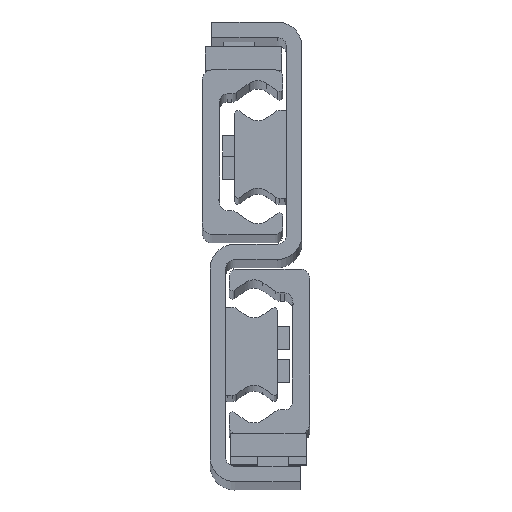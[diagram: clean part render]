
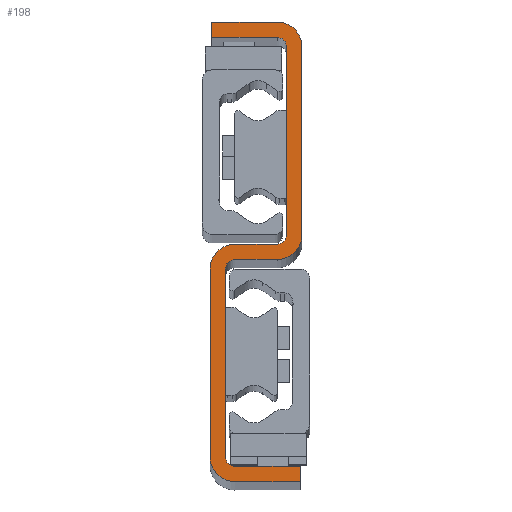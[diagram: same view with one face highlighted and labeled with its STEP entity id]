
A CAD part, top view. The second image highlights one B-rep face of the part: STEP entity #198.
In plain terms, the highlighted planar face has unit normal (0, 0, 1).
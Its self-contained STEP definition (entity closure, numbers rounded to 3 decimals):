
#198=ADVANCED_FACE('',(#673),#674,.T.);
#673=FACE_OUTER_BOUND('',#1431,.T.);
#674=PLANE('',#1432);
#1431=EDGE_LOOP('',(#2861,#2862,#2863,#2864,#2865,#2866,#2867,#2868,#2869,#2870,#2871,#2872,#2873,#2874,#2875,#2876,#2877,#2878,#2879,#2880));
#1432=AXIS2_PLACEMENT_3D('',#2881,#2882,#2883);
#2861=ORIENTED_EDGE('',*,*,#4969,.F.);
#2862=ORIENTED_EDGE('',*,*,#5027,.F.);
#2863=ORIENTED_EDGE('',*,*,#5024,.F.);
#2864=ORIENTED_EDGE('',*,*,#5021,.F.);
#2865=ORIENTED_EDGE('',*,*,#5018,.F.);
#2866=ORIENTED_EDGE('',*,*,#5015,.F.);
#2867=ORIENTED_EDGE('',*,*,#5012,.F.);
#2868=ORIENTED_EDGE('',*,*,#5009,.F.);
#2869=ORIENTED_EDGE('',*,*,#5006,.F.);
#2870=ORIENTED_EDGE('',*,*,#5003,.F.);
#2871=ORIENTED_EDGE('',*,*,#5000,.F.);
#2872=ORIENTED_EDGE('',*,*,#4997,.F.);
#2873=ORIENTED_EDGE('',*,*,#4994,.F.);
#2874=ORIENTED_EDGE('',*,*,#4991,.F.);
#2875=ORIENTED_EDGE('',*,*,#4988,.F.);
#2876=ORIENTED_EDGE('',*,*,#4985,.F.);
#2877=ORIENTED_EDGE('',*,*,#4982,.F.);
#2878=ORIENTED_EDGE('',*,*,#4979,.F.);
#2879=ORIENTED_EDGE('',*,*,#4976,.F.);
#2880=ORIENTED_EDGE('',*,*,#4973,.F.);
#2881=CARTESIAN_POINT('',(-14.,26.,1250.0));
#2882=DIRECTION('',(0.0,0.0,1.0));
#2883=DIRECTION('',(1.0,0.0,0.0));
#4969=EDGE_CURVE('',#6027,#6028,#6029,.T.);
#4973=EDGE_CURVE('',#6028,#6035,#6036,.T.);
#4976=EDGE_CURVE('',#6035,#6040,#6041,.T.);
#4979=EDGE_CURVE('',#6040,#6045,#6046,.T.);
#4982=EDGE_CURVE('',#6045,#6050,#6051,.T.);
#4985=EDGE_CURVE('',#6050,#6055,#6056,.T.);
#4988=EDGE_CURVE('',#6055,#6060,#6061,.T.);
#4991=EDGE_CURVE('',#6060,#6065,#6066,.T.);
#4994=EDGE_CURVE('',#6065,#6070,#6071,.T.);
#4997=EDGE_CURVE('',#6070,#6075,#6076,.T.);
#5000=EDGE_CURVE('',#6075,#6080,#6081,.T.);
#5003=EDGE_CURVE('',#6080,#6085,#6086,.T.);
#5006=EDGE_CURVE('',#6085,#6090,#6091,.T.);
#5009=EDGE_CURVE('',#6090,#6095,#6096,.T.);
#5012=EDGE_CURVE('',#6095,#6100,#6101,.T.);
#5015=EDGE_CURVE('',#6100,#6105,#6106,.T.);
#5018=EDGE_CURVE('',#6105,#6110,#6111,.T.);
#5021=EDGE_CURVE('',#6110,#6115,#6116,.T.);
#5024=EDGE_CURVE('',#6115,#6120,#6121,.T.);
#5027=EDGE_CURVE('',#6120,#6027,#6125,.T.);
#6027=VERTEX_POINT('',#7677);
#6028=VERTEX_POINT('',#7678);
#6029=LINE('',#7679,#7680);
#6035=VERTEX_POINT('',#7689);
#6036=CIRCLE('',#7690,2.5);
#6040=VERTEX_POINT('',#7695);
#6041=LINE('',#7696,#7697);
#6045=VERTEX_POINT('',#7703);
#6046=CIRCLE('',#7704,2.5);
#6050=VERTEX_POINT('',#7709);
#6051=LINE('',#7710,#7711);
#6055=VERTEX_POINT('',#7717);
#6056=LINE('',#7718,#7719);
#6060=VERTEX_POINT('',#7725);
#6061=LINE('',#7726,#7727);
#6065=VERTEX_POINT('',#7733);
#6066=CIRCLE('',#7734,6.5);
#6070=VERTEX_POINT('',#7739);
#6071=LINE('',#7740,#7741);
#6075=VERTEX_POINT('',#7747);
#6076=CIRCLE('',#7748,6.5);
#6080=VERTEX_POINT('',#7753);
#6081=LINE('',#7754,#7755);
#6085=VERTEX_POINT('',#7761);
#6086=CIRCLE('',#7762,2.5);
#6090=VERTEX_POINT('',#7767);
#6091=LINE('',#7768,#7769);
#6095=VERTEX_POINT('',#7775);
#6096=CIRCLE('',#7776,2.5);
#6100=VERTEX_POINT('',#7781);
#6101=LINE('',#7782,#7783);
#6105=VERTEX_POINT('',#7789);
#6106=LINE('',#7790,#7791);
#6110=VERTEX_POINT('',#7797);
#6111=LINE('',#7798,#7799);
#6115=VERTEX_POINT('',#7805);
#6116=CIRCLE('',#7806,6.5);
#6120=VERTEX_POINT('',#7811);
#6121=LINE('',#7812,#7813);
#6125=CIRCLE('',#7819,6.5);
#7677=CARTESIAN_POINT('',(-8.5,24.,1250.0));
#7678=CARTESIAN_POINT('',(-19.5,24.,1250.0));
#7679=CARTESIAN_POINT('',(-8.5,24.,1250.0));
#7680=VECTOR('',#9457,1.0);
#7689=CARTESIAN_POINT('',(-22.,21.5,1250.0));
#7690=AXIS2_PLACEMENT_3D('',#9461,#9462,#9463);
#7695=CARTESIAN_POINT('',(-22.,-27.5,1250.0));
#7696=CARTESIAN_POINT('',(-22.,-27.5,1250.0));
#7697=VECTOR('',#9468,1.0);
#7703=CARTESIAN_POINT('',(-19.5,-30.,1250.0));
#7704=AXIS2_PLACEMENT_3D('',#9471,#9472,#9473);
#7709=CARTESIAN_POINT('',(-2.5,-30.,1250.0));
#7710=CARTESIAN_POINT('',(-19.5,-30.,1250.0));
#7711=VECTOR('',#9478,1.0);
#7717=CARTESIAN_POINT('',(-2.5,-34.,1250.0));
#7718=CARTESIAN_POINT('',(-2.5,-34.,1250.0));
#7719=VECTOR('',#9481,1.0);
#7725=CARTESIAN_POINT('',(-19.5,-34.,1250.0));
#7726=CARTESIAN_POINT('',(-19.5,-34.,1250.0));
#7727=VECTOR('',#9484,1.0);
#7733=CARTESIAN_POINT('',(-26.,-27.5,1250.0));
#7734=AXIS2_PLACEMENT_3D('',#9487,#9488,#9489);
#7739=CARTESIAN_POINT('',(-26.,21.5,1250.0));
#7740=CARTESIAN_POINT('',(-26.,21.5,1250.0));
#7741=VECTOR('',#9494,1.0);
#7747=CARTESIAN_POINT('',(-19.5,28.,1250.0));
#7748=AXIS2_PLACEMENT_3D('',#9497,#9498,#9499);
#7753=CARTESIAN_POINT('',(-8.5,28.,1250.0));
#7754=CARTESIAN_POINT('',(-8.5,28.,1250.0));
#7755=VECTOR('',#9504,1.0);
#7761=CARTESIAN_POINT('',(-6.,30.5,1250.0));
#7762=AXIS2_PLACEMENT_3D('',#9507,#9508,#9509);
#7767=CARTESIAN_POINT('',(-6.,79.5,1250.0));
#7768=CARTESIAN_POINT('',(-6.,79.5,1250.0));
#7769=VECTOR('',#9514,1.0);
#7775=CARTESIAN_POINT('',(-8.5,82.,1250.0));
#7776=AXIS2_PLACEMENT_3D('',#9517,#9518,#9519);
#7781=CARTESIAN_POINT('',(-25.5,82.,1250.0));
#7782=CARTESIAN_POINT('',(-25.5,82.,1250.0));
#7783=VECTOR('',#9524,1.0);
#7789=CARTESIAN_POINT('',(-25.5,86.,1250.0));
#7790=CARTESIAN_POINT('',(-25.5,86.,1250.0));
#7791=VECTOR('',#9527,1.0);
#7797=CARTESIAN_POINT('',(-8.5,86.,1250.0));
#7798=CARTESIAN_POINT('',(-25.5,86.,1250.0));
#7799=VECTOR('',#9530,1.0);
#7805=CARTESIAN_POINT('',(-2.,79.5,1250.0));
#7806=AXIS2_PLACEMENT_3D('',#9533,#9534,#9535);
#7811=CARTESIAN_POINT('',(-2.,30.5,1250.0));
#7812=CARTESIAN_POINT('',(-2.,79.5,1250.0));
#7813=VECTOR('',#9540,1.0);
#7819=AXIS2_PLACEMENT_3D('',#9543,#9544,#9545);
#9457=DIRECTION('',(-1.0,0.,0.0));
#9461=CARTESIAN_POINT('',(-19.5,21.5,1250.0));
#9462=DIRECTION('',(0.0,0.0,1.0));
#9463=DIRECTION('',(1.0,0.0,0.0));
#9468=DIRECTION('',(-0.0,-1.0,-0.0));
#9471=CARTESIAN_POINT('',(-19.5,-27.5,1250.0));
#9472=DIRECTION('',(0.0,0.0,1.0));
#9473=DIRECTION('',(1.0,0.0,0.0));
#9478=DIRECTION('',(1.,0.,0.0));
#9481=DIRECTION('',(-0.0,-1.0,-0.0));
#9484=DIRECTION('',(-1.,0.,-0.0));
#9487=CARTESIAN_POINT('',(-19.5,-27.5,1250.0));
#9488=DIRECTION('',(0.0,0.0,-1.0));
#9489=DIRECTION('',(1.0,0.0,0.0));
#9494=DIRECTION('',(0.0,1.0,0.0));
#9497=CARTESIAN_POINT('',(-19.5,21.5,1250.0));
#9498=DIRECTION('',(0.0,0.0,-1.0));
#9499=DIRECTION('',(1.0,0.0,0.0));
#9504=DIRECTION('',(1.0,0.,0.0));
#9507=CARTESIAN_POINT('',(-8.5,30.5,1250.0));
#9508=DIRECTION('',(0.0,0.0,1.0));
#9509=DIRECTION('',(1.0,0.0,0.0));
#9514=DIRECTION('',(0.0,1.0,0.0));
#9517=CARTESIAN_POINT('',(-8.5,79.5,1250.0));
#9518=DIRECTION('',(0.0,0.0,1.0));
#9519=DIRECTION('',(1.0,0.0,0.0));
#9524=DIRECTION('',(-1.,0.,0.0));
#9527=DIRECTION('',(0.0,1.0,0.0));
#9530=DIRECTION('',(1.,0.,0.0));
#9533=CARTESIAN_POINT('',(-8.5,79.5,1250.0));
#9534=DIRECTION('',(0.0,0.0,-1.0));
#9535=DIRECTION('',(1.0,0.0,0.0));
#9540=DIRECTION('',(0.,-1.0,0.0));
#9543=CARTESIAN_POINT('',(-8.5,30.5,1250.0));
#9544=DIRECTION('',(0.0,0.0,-1.0));
#9545=DIRECTION('',(1.0,0.0,0.0));
